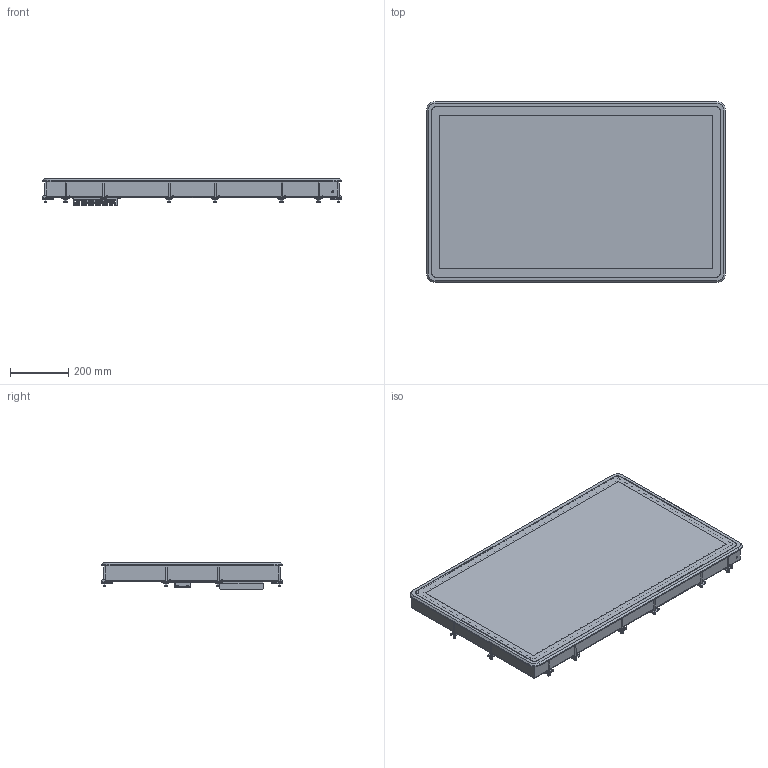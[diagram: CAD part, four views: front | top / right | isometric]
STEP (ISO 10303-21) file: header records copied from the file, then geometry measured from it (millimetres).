
FILE_DESCRIPTION(/* description */ (''),/* implementation_level */ '2;1');
FILE_NAME(/* name */ 'C:\SAPInventorWork\778-41XXX_EXTERN.stp',/* time_stamp */ '2023-04-03T13:15:50+02:00',/* author */ ('Aiple'),/* organization */ (''),/* preprocessor_version */ 'ST-DEVELOPER v18.1',/* originating_system */ 'Autodesk Inventor 2021',/* authorisation */ '');
FILE_SCHEMA (('AUTOMOTIVE_DESIGN { 1 0 10303 214 3 1 1 }'));
Products named in the file (5): 778-41XXX_EXTERN; 778-41XXX; 778-41975_IPT_000; 778-90077_BG Montage-Kit Einbau notion.D; 778-90182_notion.D Sealing Kit IP54 43,0
Assembly tree (4 placements, depth 3):
  778-41XXX_EXTERN
    778-41XXX
      778-41975_IPT_000
    778-90077_BG Montage-Kit Einbau notion.D
    778-90182_notion.D Sealing Kit IP54 43,0
Bounding box: 1030 x 623 x 92.6 mm (x, y, z)
Volume: 39415441.7 mm3; surface area: 2833037.1 mm2
Topology: 18 solids, 106 shells, 6580 faces, 16448 edges, 10614 vertices
Faces by surface type: plane 2975, cylinder 2039, cone 850, bspline 595, torus 77, sphere 44
Full cylindrical faces by diameter (mm): 0.85 x15, 2.156 x2, 2.459 x18, 2.5 x2, 2.8 x4, 2.9 x2, 2.91 x2, 3 x21, 3.242 x16, 3.5 x21, 4 x32, 4.22 x8, 4.3 x24, 4.5 x8, 4.7 x2, 4.767 x16, 4.917 x8, 5 x47, 5.2 x1, 5.3 x1, 5.38 x16, 5.4 x16, 5.5 x8, 5.54 x19, 5.7 x32, 5.8 x4, 6.6 x16, 7 x16, 7.11 x16, 7.2 x16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
Entity records: 223592 total; most frequent: CARTESIAN_POINT 66671, ORIENTED_EDGE 32724, DIRECTION 28337, EDGE_CURVE 16362, VERTEX_POINT 10614, AXIS2_PLACEMENT_3D 9670, LINE 8997, VECTOR 8997
